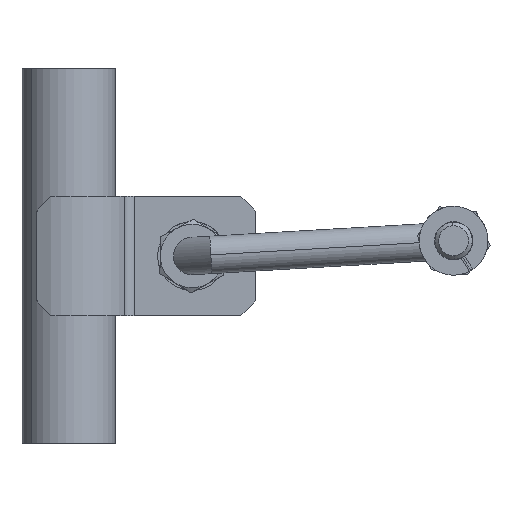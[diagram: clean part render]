
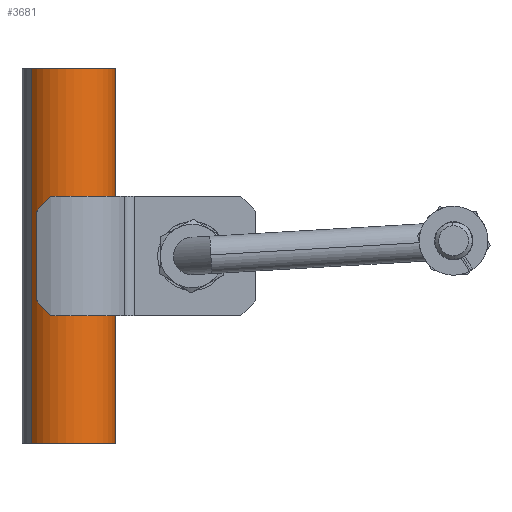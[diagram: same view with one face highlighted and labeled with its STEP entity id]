
A CAD part, front view. The second image highlights one B-rep face of the part: STEP entity #3681.
In plain terms, the highlighted cylindrical face has radius 12.5 mm (diameter 25 mm), a partial arc.
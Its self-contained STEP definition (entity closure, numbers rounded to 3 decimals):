
#4 = CARTESIAN_POINT ( 'NONE',  ( -101.531, 151.53, 4255.976 ) ) ;
#232 = VERTEX_POINT ( 'NONE', #4406 ) ;
#288 = VERTEX_POINT ( 'NONE', #3980 ) ;
#345 = DIRECTION ( 'NONE',  ( 0., 0., 1. ) ) ;
#361 = FACE_OUTER_BOUND ( 'NONE', #869, .T. ) ;
#761 = AXIS2_PLACEMENT_3D ( 'NONE', #4, #2116, #1245 ) ;
#869 = EDGE_LOOP ( 'NONE', ( #2333, #3454, #2971, #3671 ) ) ;
#942 = EDGE_CURVE ( 'NONE', #288, #2174, #3783, .T. ) ;
#970 = VECTOR ( 'NONE', #345, 1000. ) ;
#1009 = CARTESIAN_POINT ( 'NONE',  ( -91.514, 159.007, 4355.976 ) ) ;
#1153 = EDGE_CURVE ( 'NONE', #288, #232, #2294, .T. ) ;
#1245 = DIRECTION ( 'NONE',  ( -0.801, -0.598, 0. ) ) ;
#1656 = AXIS2_PLACEMENT_3D ( 'NONE', #4494, #4461, #2012 ) ;
#1747 = CYLINDRICAL_SURFACE ( 'NONE', #761, 12.5 ) ;
#1948 = DIRECTION ( 'NONE',  ( 0., 0., 1. ) ) ;
#2012 = DIRECTION ( 'NONE',  ( -0.801, -0.598, 0. ) ) ;
#2116 = DIRECTION ( 'NONE',  ( 0., 0., 1. ) ) ;
#2149 = CARTESIAN_POINT ( 'NONE',  ( -111.549, 144.053, 4355.976 ) ) ;
#2174 = VERTEX_POINT ( 'NONE', #2149 ) ;
#2294 = CIRCLE ( 'NONE', #3752, 12.5 ) ;
#2333 = ORIENTED_EDGE ( 'NONE', *, *, #1153, .T. ) ;
#2516 = VERTEX_POINT ( 'NONE', #1009 ) ;
#2647 = EDGE_CURVE ( 'NONE', #232, #2516, #3149, .T. ) ;
#2834 = CARTESIAN_POINT ( 'NONE',  ( -91.514, 159.007, 4255.976 ) ) ;
#2887 = VECTOR ( 'NONE', #4258, 1000. ) ;
#2971 = ORIENTED_EDGE ( 'NONE', *, *, #4491, .F. ) ;
#3067 = CARTESIAN_POINT ( 'NONE',  ( -111.549, 144.053, 4255.976 ) ) ;
#3149 = LINE ( 'NONE', #2834, #2887 ) ;
#3454 = ORIENTED_EDGE ( 'NONE', *, *, #2647, .T. ) ;
#3671 = ORIENTED_EDGE ( 'NONE', *, *, #942, .F. ) ;
#3681 = ADVANCED_FACE ( 'NONE', ( #361 ), #1747, .T. ) ;
#3752 = AXIS2_PLACEMENT_3D ( 'NONE', #3996, #1948, #4368 ) ;
#3783 = LINE ( 'NONE', #3067, #970 ) ;
#3980 = CARTESIAN_POINT ( 'NONE',  ( -111.549, 144.053, 4255.976 ) ) ;
#3996 = CARTESIAN_POINT ( 'NONE',  ( -101.531, 151.53, 4255.976 ) ) ;
#4258 = DIRECTION ( 'NONE',  ( 0., 0., 1. ) ) ;
#4368 = DIRECTION ( 'NONE',  ( -0.801, -0.598, 0. ) ) ;
#4406 = CARTESIAN_POINT ( 'NONE',  ( -91.514, 159.007, 4255.976 ) ) ;
#4458 = CIRCLE ( 'NONE', #1656, 12.5 ) ;
#4461 = DIRECTION ( 'NONE',  ( 0., 0., 1. ) ) ;
#4491 = EDGE_CURVE ( 'NONE', #2174, #2516, #4458, .T. ) ;
#4494 = CARTESIAN_POINT ( 'NONE',  ( -101.531, 151.53, 4355.976 ) ) ;
